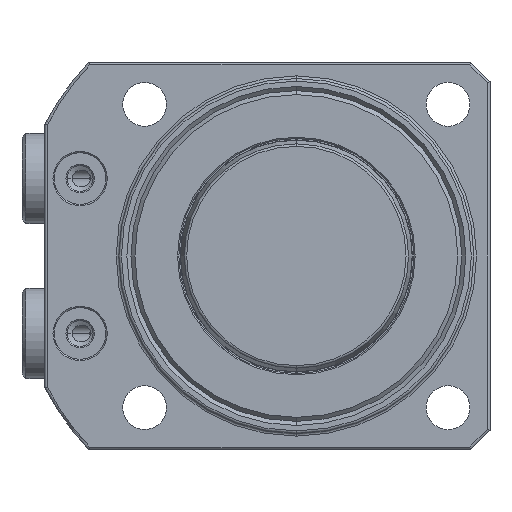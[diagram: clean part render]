
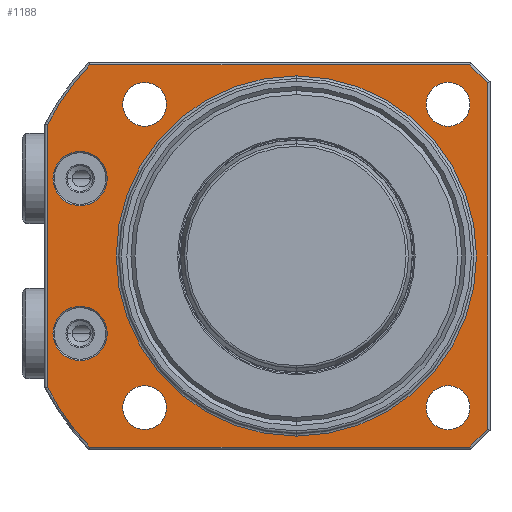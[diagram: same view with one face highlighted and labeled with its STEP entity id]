
A CAD part, front view. The second image highlights one B-rep face of the part: STEP entity #1188.
In plain terms, the highlighted planar face has unit normal (0, -1, 0) as drawn and (1, 0, 0) by its records, which use the part's own axes.
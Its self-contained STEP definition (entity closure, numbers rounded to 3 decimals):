
#837=PLANE('',#4642);
#914=FACE_BOUND('',#1684,.T.);
#915=FACE_BOUND('',#1685,.T.);
#916=FACE_BOUND('',#1686,.T.);
#917=FACE_BOUND('',#1687,.T.);
#918=FACE_BOUND('',#1688,.T.);
#919=FACE_BOUND('',#1689,.T.);
#920=FACE_BOUND('',#1690,.T.);
#921=FACE_BOUND('',#1691,.T.);
#1188=ADVANCED_FACE('',(#914,#915,#916,#917,#918,#919,#920,#921),#837,.F.);
#1684=EDGE_LOOP('',(#2497,#2498));
#1685=EDGE_LOOP('',(#2499,#2500));
#1686=EDGE_LOOP('',(#2501,#2502,#2503,#2504,#2505,#2506,#2507,#2508));
#1687=EDGE_LOOP('',(#2509,#2510));
#1688=EDGE_LOOP('',(#2511,#2512));
#1689=EDGE_LOOP('',(#2513,#2514));
#1690=EDGE_LOOP('',(#2515,#2516));
#1691=EDGE_LOOP('',(#2517,#2518));
#1960=LINE('',#6744,#2165);
#1961=LINE('',#6747,#2166);
#1962=LINE('',#6749,#2167);
#1963=LINE('',#6751,#2168);
#1964=LINE('',#6753,#2169);
#1965=LINE('',#6757,#2170);
#2165=VECTOR('',#5307,1.);
#2166=VECTOR('',#5308,1.);
#2167=VECTOR('',#5309,1.);
#2168=VECTOR('',#5310,1.);
#2169=VECTOR('',#5311,1.);
#2170=VECTOR('',#5314,1.);
#2497=ORIENTED_EDGE('',*,*,#3738,.T.);
#2498=ORIENTED_EDGE('',*,*,#3898,.T.);
#2499=ORIENTED_EDGE('',*,*,#3728,.T.);
#2500=ORIENTED_EDGE('',*,*,#3899,.T.);
#2501=ORIENTED_EDGE('',*,*,#3900,.T.);
#2502=ORIENTED_EDGE('',*,*,#3901,.T.);
#2503=ORIENTED_EDGE('',*,*,#3902,.T.);
#2504=ORIENTED_EDGE('',*,*,#3903,.T.);
#2505=ORIENTED_EDGE('',*,*,#3904,.T.);
#2506=ORIENTED_EDGE('',*,*,#3905,.T.);
#2507=ORIENTED_EDGE('',*,*,#3906,.T.);
#2508=ORIENTED_EDGE('',*,*,#3907,.T.);
#2509=ORIENTED_EDGE('',*,*,#3908,.T.);
#2510=ORIENTED_EDGE('',*,*,#3750,.T.);
#2511=ORIENTED_EDGE('',*,*,#3909,.T.);
#2512=ORIENTED_EDGE('',*,*,#3845,.T.);
#2513=ORIENTED_EDGE('',*,*,#3910,.T.);
#2514=ORIENTED_EDGE('',*,*,#3853,.T.);
#2515=ORIENTED_EDGE('',*,*,#3911,.T.);
#2516=ORIENTED_EDGE('',*,*,#3861,.T.);
#2517=ORIENTED_EDGE('',*,*,#3912,.T.);
#2518=ORIENTED_EDGE('',*,*,#3869,.T.);
#3387=VERTEX_POINT('',#6152);
#3388=VERTEX_POINT('',#6154);
#3397=VERTEX_POINT('',#6174);
#3398=VERTEX_POINT('',#6176);
#3409=VERTEX_POINT('',#6202);
#3410=VERTEX_POINT('',#6203);
#3485=VERTEX_POINT('',#6571);
#3486=VERTEX_POINT('',#6572);
#3493=VERTEX_POINT('',#6598);
#3494=VERTEX_POINT('',#6599);
#3501=VERTEX_POINT('',#6625);
#3502=VERTEX_POINT('',#6626);
#3509=VERTEX_POINT('',#6652);
#3510=VERTEX_POINT('',#6653);
#3525=VERTEX_POINT('',#6745);
#3526=VERTEX_POINT('',#6746);
#3527=VERTEX_POINT('',#6748);
#3528=VERTEX_POINT('',#6750);
#3529=VERTEX_POINT('',#6752);
#3530=VERTEX_POINT('',#6754);
#3531=VERTEX_POINT('',#6756);
#3532=VERTEX_POINT('',#6758);
#3728=EDGE_CURVE('',#3388,#3387,#4270,.T.);
#3738=EDGE_CURVE('',#3398,#3397,#4276,.T.);
#3750=EDGE_CURVE('',#3409,#3410,#4285,.T.);
#3845=EDGE_CURVE('',#3485,#3486,#4327,.T.);
#3853=EDGE_CURVE('',#3493,#3494,#4330,.T.);
#3861=EDGE_CURVE('',#3501,#3502,#4333,.T.);
#3869=EDGE_CURVE('',#3509,#3510,#4336,.T.);
#3898=EDGE_CURVE('',#3397,#3398,#4348,.T.);
#3899=EDGE_CURVE('',#3387,#3388,#4349,.T.);
#3900=EDGE_CURVE('',#3525,#3526,#1960,.T.);
#3901=EDGE_CURVE('',#3526,#3527,#1961,.T.);
#3902=EDGE_CURVE('',#3527,#3528,#1962,.T.);
#3903=EDGE_CURVE('',#3528,#3529,#1963,.T.);
#3904=EDGE_CURVE('',#3529,#3530,#1964,.T.);
#3905=EDGE_CURVE('',#3530,#3531,#4350,.T.);
#3906=EDGE_CURVE('',#3531,#3532,#1965,.T.);
#3907=EDGE_CURVE('',#3532,#3525,#4351,.T.);
#3908=EDGE_CURVE('',#3410,#3409,#4352,.T.);
#3909=EDGE_CURVE('',#3486,#3485,#4353,.T.);
#3910=EDGE_CURVE('',#3494,#3493,#4354,.T.);
#3911=EDGE_CURVE('',#3502,#3501,#4355,.T.);
#3912=EDGE_CURVE('',#3510,#3509,#4356,.T.);
#4270=CIRCLE('',#4513,4.2);
#4276=CIRCLE('',#4521,4.2);
#4285=CIRCLE('',#4533,27.9);
#4327=CIRCLE('',#4599,3.4);
#4330=CIRCLE('',#4604,3.4);
#4333=CIRCLE('',#4609,3.4);
#4336=CIRCLE('',#4614,3.4);
#4348=CIRCLE('',#4633,4.2);
#4349=CIRCLE('',#4634,4.2);
#4350=CIRCLE('',#4635,43.6);
#4351=CIRCLE('',#4636,43.6);
#4352=CIRCLE('',#4637,27.9);
#4353=CIRCLE('',#4638,3.4);
#4354=CIRCLE('',#4639,3.4);
#4355=CIRCLE('',#4640,3.4);
#4356=CIRCLE('',#4641,3.4);
#4513=AXIS2_PLACEMENT_3D('',#6153,#4993,#4994);
#4521=AXIS2_PLACEMENT_3D('',#6175,#5013,#5014);
#4533=AXIS2_PLACEMENT_3D('',#6201,#5040,#5041);
#4599=AXIS2_PLACEMENT_3D('',#6570,#5214,#5215);
#4604=AXIS2_PLACEMENT_3D('',#6597,#5228,#5229);
#4609=AXIS2_PLACEMENT_3D('',#6624,#5242,#5243);
#4614=AXIS2_PLACEMENT_3D('',#6651,#5256,#5257);
#4633=AXIS2_PLACEMENT_3D('',#6742,#5303,#5304);
#4634=AXIS2_PLACEMENT_3D('',#6743,#5305,#5306);
#4635=AXIS2_PLACEMENT_3D('',#6755,#5312,#5313);
#4636=AXIS2_PLACEMENT_3D('',#6759,#5315,#5316);
#4637=AXIS2_PLACEMENT_3D('',#6760,#5317,#5318);
#4638=AXIS2_PLACEMENT_3D('',#6761,#5319,#5320);
#4639=AXIS2_PLACEMENT_3D('',#6762,#5321,#5322);
#4640=AXIS2_PLACEMENT_3D('',#6763,#5323,#5324);
#4641=AXIS2_PLACEMENT_3D('',#6764,#5325,#5326);
#4642=AXIS2_PLACEMENT_3D('',#6765,#5327,#5328);
#4993=DIRECTION('',(-1.,0.,0.));
#4994=DIRECTION('',(0.,0.,1.));
#5013=DIRECTION('',(-1.,0.,0.));
#5014=DIRECTION('',(0.,0.,1.));
#5040=DIRECTION('',(-1.,0.,0.));
#5041=DIRECTION('',(0.,0.,1.));
#5214=DIRECTION('',(-1.,0.,0.));
#5215=DIRECTION('',(0.,0.,1.));
#5228=DIRECTION('',(-1.,0.,0.));
#5229=DIRECTION('',(0.,0.,1.));
#5242=DIRECTION('',(-1.,0.,0.));
#5243=DIRECTION('',(0.,0.,1.));
#5256=DIRECTION('',(-1.,0.,0.));
#5257=DIRECTION('',(0.,0.,1.));
#5303=DIRECTION('',(-1.,0.,0.));
#5304=DIRECTION('',(0.,0.,1.));
#5305=DIRECTION('',(-1.,0.,0.));
#5306=DIRECTION('',(0.,0.,1.));
#5307=DIRECTION('',(0.,1.,0.));
#5308=DIRECTION('',(0.,0.707,0.707));
#5309=DIRECTION('',(0.,0.,1.));
#5310=DIRECTION('',(0.,-0.707,0.707));
#5311=DIRECTION('',(0.,-1.,0.));
#5312=DIRECTION('',(1.,0.,0.));
#5313=DIRECTION('',(0.,0.,1.));
#5314=DIRECTION('',(0.,0.,-1.));
#5315=DIRECTION('',(1.,0.,0.));
#5316=DIRECTION('',(0.,0.,1.));
#5317=DIRECTION('',(-1.,0.,0.));
#5318=DIRECTION('',(0.,0.,1.));
#5319=DIRECTION('',(-1.,0.,0.));
#5320=DIRECTION('',(0.,0.,1.));
#5321=DIRECTION('',(-1.,0.,0.));
#5322=DIRECTION('',(0.,0.,1.));
#5323=DIRECTION('',(-1.,0.,0.));
#5324=DIRECTION('',(0.,0.,1.));
#5325=DIRECTION('',(-1.,0.,0.));
#5326=DIRECTION('',(0.,0.,1.));
#5327=DIRECTION('',(-1.,0.,0.));
#5328=DIRECTION('',(0.,0.,-1.));
#6152=CARTESIAN_POINT('',(30.,-33.5,16.2));
#6153=CARTESIAN_POINT('',(30.,-33.5,12.));
#6154=CARTESIAN_POINT('',(30.,-33.5,7.8));
#6174=CARTESIAN_POINT('',(30.,-33.5,-7.8));
#6175=CARTESIAN_POINT('',(30.,-33.5,-12.));
#6176=CARTESIAN_POINT('',(30.,-33.5,-16.2));
#6201=CARTESIAN_POINT('',(30.,0.,0.));
#6202=CARTESIAN_POINT('',(30.,0.,-27.9));
#6203=CARTESIAN_POINT('',(30.,0.,27.9));
#6570=CARTESIAN_POINT('',(30.,23.5,-23.5));
#6571=CARTESIAN_POINT('',(30.,23.5,-26.9));
#6572=CARTESIAN_POINT('',(30.,23.5,-20.1));
#6597=CARTESIAN_POINT('',(30.,23.5,23.5));
#6598=CARTESIAN_POINT('',(30.,23.5,20.1));
#6599=CARTESIAN_POINT('',(30.,23.5,26.9));
#6624=CARTESIAN_POINT('',(30.,-23.5,23.5));
#6625=CARTESIAN_POINT('',(30.,-23.5,20.1));
#6626=CARTESIAN_POINT('',(30.,-23.5,26.9));
#6651=CARTESIAN_POINT('',(30.,-23.5,-23.5));
#6652=CARTESIAN_POINT('',(30.,-23.5,-26.9));
#6653=CARTESIAN_POINT('',(30.,-23.5,-20.1));
#6742=CARTESIAN_POINT('',(30.,-33.5,-12.));
#6743=CARTESIAN_POINT('',(30.,-33.5,12.));
#6744=CARTESIAN_POINT('',(30.,44.,-29.6));
#6745=CARTESIAN_POINT('',(30.,-32.012,-29.6));
#6746=CARTESIAN_POINT('',(30.,26.834,-29.6));
#6747=CARTESIAN_POINT('',(30.,29.717,-26.717));
#6748=CARTESIAN_POINT('',(30.,29.6,-26.834));
#6749=CARTESIAN_POINT('',(30.,29.6,0.));
#6750=CARTESIAN_POINT('',(30.,29.6,26.834));
#6751=CARTESIAN_POINT('',(30.,26.717,29.717));
#6752=CARTESIAN_POINT('',(30.,26.834,29.6));
#6753=CARTESIAN_POINT('',(30.,44.,29.6));
#6754=CARTESIAN_POINT('',(30.,-32.012,29.6));
#6755=CARTESIAN_POINT('',(30.,0.,0.));
#6756=CARTESIAN_POINT('',(30.,-38.6,20.273));
#6757=CARTESIAN_POINT('',(30.,-38.6,0.));
#6758=CARTESIAN_POINT('',(30.,-38.6,-20.273));
#6759=CARTESIAN_POINT('',(30.,0.,0.));
#6760=CARTESIAN_POINT('',(30.,0.,0.));
#6761=CARTESIAN_POINT('',(30.,23.5,-23.5));
#6762=CARTESIAN_POINT('',(30.,23.5,23.5));
#6763=CARTESIAN_POINT('',(30.,-23.5,23.5));
#6764=CARTESIAN_POINT('',(30.,-23.5,-23.5));
#6765=CARTESIAN_POINT('',(30.,44.,0.));
